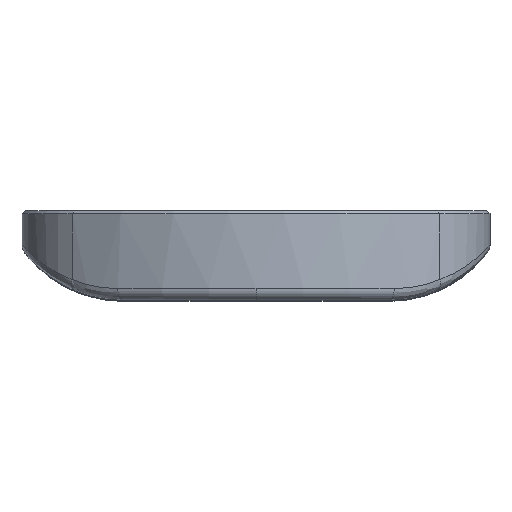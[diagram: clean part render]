
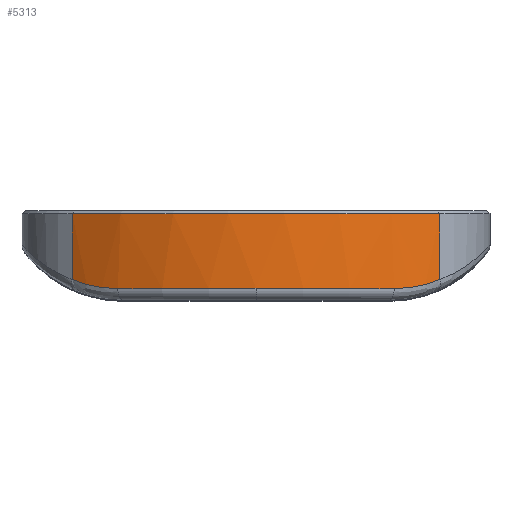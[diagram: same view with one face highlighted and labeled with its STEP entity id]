
A CAD part, top view. The second image highlights one B-rep face of the part: STEP entity #5313.
In plain terms, the highlighted cylindrical face has radius 55 mm (diameter 110 mm), a partial arc.
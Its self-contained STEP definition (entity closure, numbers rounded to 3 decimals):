
#981 = ORIENTED_EDGE ( 'NONE', *, *, #33320, .T. ) ;
#1620 = CARTESIAN_POINT ( 'NONE',  ( 0., 2., 0. ) ) ;
#1983 = DIRECTION ( 'NONE',  ( 0., 0., 1. ) ) ;
#2802 = DIRECTION ( 'NONE',  ( 0., -1., 0. ) ) ;
#3519 = CARTESIAN_POINT ( 'NONE',  ( 30.221, 3.044, 45.977 ) ) ;
#5313 = ADVANCED_FACE ( 'NONE', ( #33306 ), #58416, .T. ) ;
#7843 = ORIENTED_EDGE ( 'NONE', *, *, #52399, .T. ) ;
#8554 = AXIS2_PLACEMENT_3D ( 'NONE', #52713, #22326, #58083 ) ;
#10104 = B_SPLINE_CURVE_WITH_KNOTS ( 'NONE', 3,
 ( #62749, #52987, #63723, #53956, #3519, #12880 ),
 .UNSPECIFIED., .F., .F.,
 ( 4, 2, 4 ),
 ( 0., 0.005, 0.009 ),
 .UNSPECIFIED. ) ;
#11257 = DIRECTION ( 'NONE',  ( 0., 0., 1. ) ) ;
#11765 = VECTOR ( 'NONE', #34111, 1000. ) ;
#12495 = LINE ( 'NONE', #37566, #52386 ) ;
#12880 = CARTESIAN_POINT ( 'NONE',  ( 31.429, 3.54, 45.136 ) ) ;
#13408 = VERTEX_POINT ( 'NONE', #49290 ) ;
#14836 = ORIENTED_EDGE ( 'NONE', *, *, #15762, .T. ) ;
#15762 = EDGE_CURVE ( 'NONE', #28554, #50362, #52811, .T. ) ;
#16870 = VERTEX_POINT ( 'NONE', #42687 ) ;
#19040 = VERTEX_POINT ( 'NONE', #23854 ) ;
#19482 = DIRECTION ( 'NONE',  ( 0., 1., 0. ) ) ;
#19737 = B_SPLINE_CURVE_WITH_KNOTS ( 'NONE', 3,
 ( #44666, #39654, #39980, #60384, #19921, #50324 ),
 .UNSPECIFIED., .F., .F.,
 ( 4, 2, 4 ),
 ( 0., 0.005, 0.009 ),
 .UNSPECIFIED. ) ;
#19921 = CARTESIAN_POINT ( 'NONE',  ( -25.014, 2., 49.007 ) ) ;
#20810 = AXIS2_PLACEMENT_3D ( 'NONE', #1620, #22373, #1983 ) ;
#22326 = DIRECTION ( 'NONE',  ( 0., -1., 0. ) ) ;
#22373 = DIRECTION ( 'NONE',  ( 0., 1., 0. ) ) ;
#23430 = CARTESIAN_POINT ( 'NONE',  ( 31.429, 15., 45.136 ) ) ;
#23710 = AXIS2_PLACEMENT_3D ( 'NONE', #49851, #19482, #48533 ) ;
#23790 = ORIENTED_EDGE ( 'NONE', *, *, #44166, .T. ) ;
#23854 = CARTESIAN_POINT ( 'NONE',  ( 31.429, 14.791, 45.136 ) ) ;
#24526 = EDGE_CURVE ( 'NONE', #13408, #28554, #19737, .T. ) ;
#28495 = CARTESIAN_POINT ( 'NONE',  ( 0., 2., 55. ) ) ;
#28554 = VERTEX_POINT ( 'NONE', #40549 ) ;
#32737 = CARTESIAN_POINT ( 'NONE',  ( -31.429, 14.791, 45.136 ) ) ;
#33306 = FACE_OUTER_BOUND ( 'NONE', #52095, .T. ) ;
#33320 = EDGE_CURVE ( 'NONE', #38384, #13408, #12495, .T. ) ;
#34111 = DIRECTION ( 'NONE',  ( 0., 1., 0. ) ) ;
#37566 = CARTESIAN_POINT ( 'NONE',  ( -31.429, 15., 45.136 ) ) ;
#38384 = VERTEX_POINT ( 'NONE', #32737 ) ;
#38952 = EDGE_CURVE ( 'NONE', #50362, #16870, #39677, .T. ) ;
#39654 = CARTESIAN_POINT ( 'NONE',  ( -30.221, 3.044, 45.977 ) ) ;
#39677 = CIRCLE ( 'NONE', #23710, 55. ) ;
#39980 = CARTESIAN_POINT ( 'NONE',  ( -28.968, 2.663, 46.777 ) ) ;
#40549 = CARTESIAN_POINT ( 'NONE',  ( -23.608, 2., 49.675 ) ) ;
#42687 = CARTESIAN_POINT ( 'NONE',  ( 23.608, 2., 49.675 ) ) ;
#44166 = EDGE_CURVE ( 'NONE', #19040, #38384, #54860, .T. ) ;
#44354 = CARTESIAN_POINT ( 'NONE',  ( 31.429, 3.54, 45.136 ) ) ;
#44666 = CARTESIAN_POINT ( 'NONE',  ( -31.429, 3.54, 45.136 ) ) ;
#48533 = DIRECTION ( 'NONE',  ( 0., 0., 1. ) ) ;
#49290 = CARTESIAN_POINT ( 'NONE',  ( -31.429, 3.54, 45.136 ) ) ;
#49851 = CARTESIAN_POINT ( 'NONE',  ( 0., 2., 0. ) ) ;
#50324 = CARTESIAN_POINT ( 'NONE',  ( -23.608, 2., 49.675 ) ) ;
#50362 = VERTEX_POINT ( 'NONE', #28495 ) ;
#52095 = EDGE_LOOP ( 'NONE', ( #7843, #23790, #981, #54344, #14836, #55178, #56517 ) ) ;
#52386 = VECTOR ( 'NONE', #2802, 1000. ) ;
#52399 = EDGE_CURVE ( 'NONE', #64974, #19040, #55153, .T. ) ;
#52713 = CARTESIAN_POINT ( 'NONE',  ( 0., 15., 0. ) ) ;
#52811 = CIRCLE ( 'NONE', #20810, 55. ) ;
#52987 = CARTESIAN_POINT ( 'NONE',  ( 25.014, 2., 49.007 ) ) ;
#53956 = CARTESIAN_POINT ( 'NONE',  ( 28.968, 2.663, 46.777 ) ) ;
#54344 = ORIENTED_EDGE ( 'NONE', *, *, #24526, .T. ) ;
#54860 = CIRCLE ( 'NONE', #59165, 55. ) ;
#55153 = LINE ( 'NONE', #23430, #11765 ) ;
#55178 = ORIENTED_EDGE ( 'NONE', *, *, #38952, .T. ) ;
#56517 = ORIENTED_EDGE ( 'NONE', *, *, #65088, .T. ) ;
#57069 = DIRECTION ( 'NONE',  ( 0., -1., 0. ) ) ;
#58083 = DIRECTION ( 'NONE',  ( 0., 0., -1. ) ) ;
#58416 = CYLINDRICAL_SURFACE ( 'NONE', #8554, 55. ) ;
#59165 = AXIS2_PLACEMENT_3D ( 'NONE', #62781, #57069, #11257 ) ;
#60384 = CARTESIAN_POINT ( 'NONE',  ( -26.364, 2.141, 48.293 ) ) ;
#62749 = CARTESIAN_POINT ( 'NONE',  ( 23.608, 2., 49.675 ) ) ;
#62781 = CARTESIAN_POINT ( 'NONE',  ( 0., 14.791, 0. ) ) ;
#63723 = CARTESIAN_POINT ( 'NONE',  ( 26.364, 2.141, 48.293 ) ) ;
#64974 = VERTEX_POINT ( 'NONE', #44354 ) ;
#65088 = EDGE_CURVE ( 'NONE', #16870, #64974, #10104, .T. ) ;
